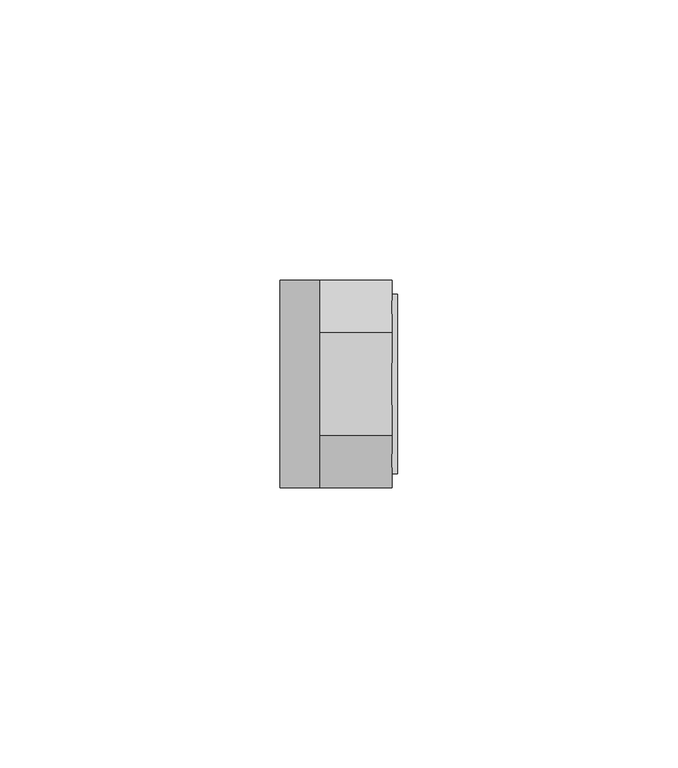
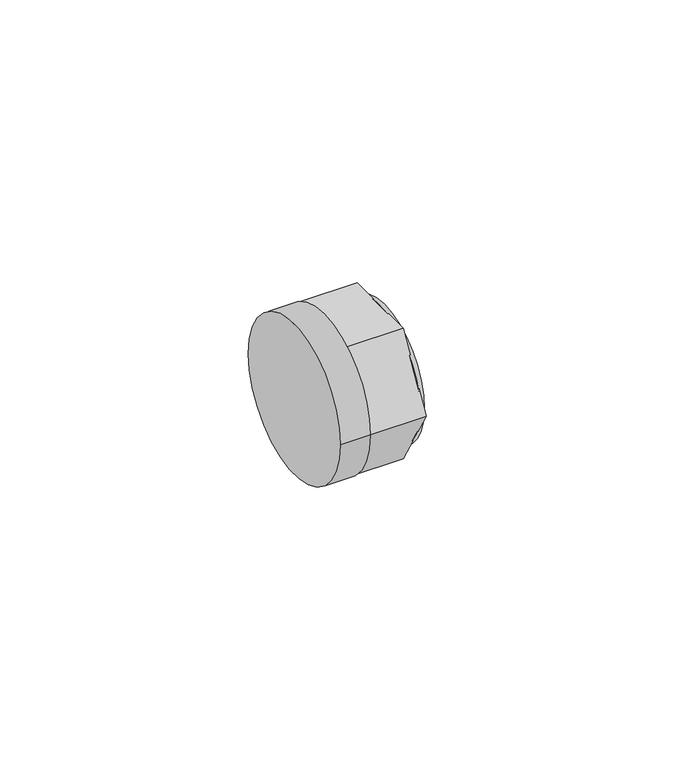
"""IFC4 building model written with IfcOpenShell, lengths in millimetres: pipe fitting geometry, 01011012 : Tapones H."""

from ifc_helpers import new_model, si_unit, point, frame, origin, origin_2d, place, context, project, spatial, polyline, circle_curve, trimmed, segment, composite_curve, outline, extrude, source, transform, mapped, element, save


def pipe_fitting_78bbc840(model_context):
    return source(origin(), model_context, "Body", "SweptSolid", [
        extrude(outline(composite_curve([segment(trimmed(circle_curve(origin_2d(), 16.0), [point((-16.0, 0.0))], [point((16.0, 0.0))], False, "CARTESIAN"), True, "CONTINUOUS"), segment(trimmed(circle_curve(origin_2d(), 16.0), [point((16.0, 0.0))], [point((-16.0, 0.0))], False, "CARTESIAN"), True, "CONTINUOUS")], self_intersect=False)), frame((20.0, 0.0, 0.0), z_axis=(1.0, 0.0, 0.0), x_axis=(0.0, 1.0, 0.0)), (0.0, 0.0, 1.0), 1.0),
        extrude(outline(composite_curve([segment(trimmed(circle_curve(origin_2d(), 18.5), [point((-18.5, 0.0))], [point((18.5, 0.0))], False, "CARTESIAN"), True, "CONTINUOUS"), segment(trimmed(circle_curve(origin_2d(), 18.5), [point((18.5, 0.0))], [point((-18.5, 0.0))], False, "CARTESIAN"), True, "CONTINUOUS")], self_intersect=False)), frame((0.0, 0.0, 0.0), z_axis=(1.0, 0.0, 0.0), x_axis=(0.0, 1.0, 0.0)), (0.0, 0.0, 1.0), 7.0),
        extrude(outline(polyline([(-9.2376043, 16.0), (9.2376043, 16.0), (18.4752086, 0.0), (9.2376043, -16.0), (-9.2376043, -16.0), (-18.4752086, 0.0), (-9.2376043, 16.0)])), frame((7.0, 0.0, 0.0), z_axis=(1.0, 0.0, 0.0), x_axis=(0.0, 1.0, 0.0)), (0.0, 0.0, 1.0), 13.0),
    ])


if __name__ == "__main__":
    model = new_model("IFC4")
    model_context = context("Model", 3, world=origin())
    ifc_project = project(units=[si_unit("LENGTHUNIT", "METRE", prefix="MILLI")], contexts=[model_context])
    site = spatial("IfcSite", under=ifc_project)
    building = spatial("IfcBuilding", under=site)
    placement = place(None, origin())
    pipe_fitting_shape = pipe_fitting_78bbc840(model_context)
    element("IfcPipeFitting", 1, ObjectType="01011012 : Tapones H", at=placement, inside=building, context=model_context, shape_type="MappedRepresentation", body=[
        mapped(pipe_fitting_shape, transform((0.0, 0.0, 0.0), x_axis=(1.0, 0.0, 0.0), y_axis=(0.0, 1.0, 0.0), z_axis=(0.0, 0.0, 1.0))),
    ])
    save(model, "model.ifc")
